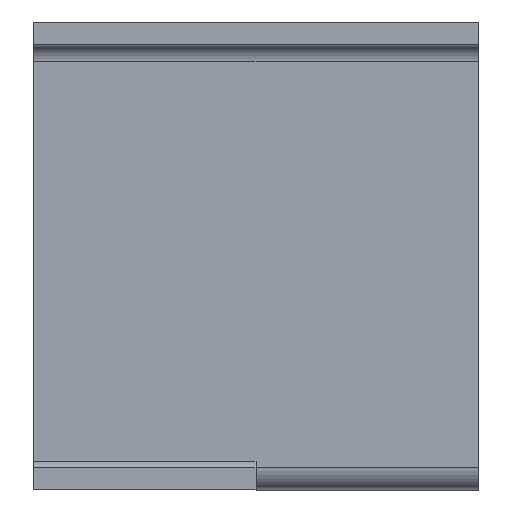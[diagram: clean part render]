
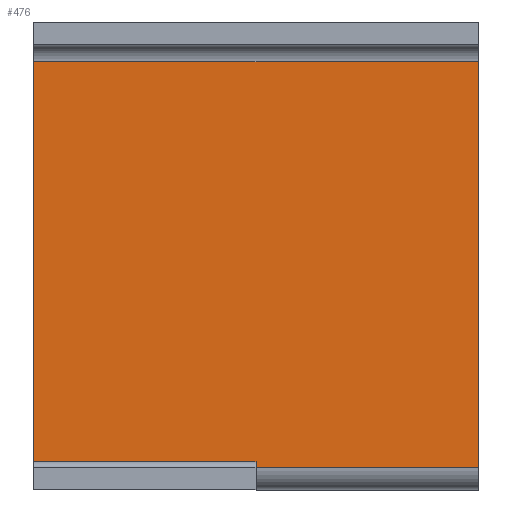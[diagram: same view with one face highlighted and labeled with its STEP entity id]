
A CAD part, top view. The second image highlights one B-rep face of the part: STEP entity #476.
In plain terms, the highlighted planar face has unit normal (0, 0, 1).
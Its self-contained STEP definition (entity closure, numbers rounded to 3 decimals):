
#58=FACE_OUTER_BOUND('',#83,.T.);
#83=EDGE_LOOP('',(#380,#381,#382,#383,#384,#385));
#103=LINE('',#711,#153);
#117=LINE('',#747,#167);
#124=LINE('',#772,#174);
#130=LINE('',#789,#180);
#132=LINE('',#794,#182);
#133=LINE('',#795,#183);
#153=VECTOR('',#573,10.);
#167=VECTOR('',#603,10.);
#174=VECTOR('',#626,10.);
#180=VECTOR('',#644,10.);
#182=VECTOR('',#650,10.);
#183=VECTOR('',#651,10.);
#203=VERTEX_POINT('',#707);
#205=VERTEX_POINT('',#710);
#219=VERTEX_POINT('',#746);
#228=VERTEX_POINT('',#769);
#229=VERTEX_POINT('',#771);
#234=VERTEX_POINT('',#788);
#253=EDGE_CURVE('',#203,#205,#103,.T.);
#271=EDGE_CURVE('',#205,#219,#117,.T.);
#283=EDGE_CURVE('',#228,#229,#124,.T.);
#292=EDGE_CURVE('',#219,#234,#130,.T.);
#295=EDGE_CURVE('',#203,#229,#132,.T.);
#296=EDGE_CURVE('',#234,#228,#133,.T.);
#380=ORIENTED_EDGE('',*,*,#295,.T.);
#381=ORIENTED_EDGE('',*,*,#283,.F.);
#382=ORIENTED_EDGE('',*,*,#296,.F.);
#383=ORIENTED_EDGE('',*,*,#292,.F.);
#384=ORIENTED_EDGE('',*,*,#271,.F.);
#385=ORIENTED_EDGE('',*,*,#253,.F.);
#451=PLANE('',#533);
#476=ADVANCED_FACE('',(#58),#451,.T.);
#533=AXIS2_PLACEMENT_3D('',#793,#648,#649);
#573=DIRECTION('',(-1.,0.,0.));
#603=DIRECTION('',(0.,1.,0.));
#626=DIRECTION('',(-1.,0.,0.));
#644=DIRECTION('',(1.,0.,0.));
#648=DIRECTION('center_axis',(0.,0.,1.));
#649=DIRECTION('ref_axis',(0.,-1.,0.));
#650=DIRECTION('',(0.,-1.,0.));
#651=DIRECTION('',(0.,-1.,0.));
#707=CARTESIAN_POINT('',(20.,2.5,0.));
#710=CARTESIAN_POINT('',(0.,2.5,0.));
#711=CARTESIAN_POINT('',(10.,2.5,0.));
#746=CARTESIAN_POINT('',(0.,38.5,0.));
#747=CARTESIAN_POINT('',(0.,0.,0.));
#769=CARTESIAN_POINT('',(40.,2.,0.));
#771=CARTESIAN_POINT('',(20.,2.,0.));
#772=CARTESIAN_POINT('',(0.,2.,0.));
#788=CARTESIAN_POINT('',(40.,38.5,0.));
#789=CARTESIAN_POINT('',(0.,38.5,0.));
#793=CARTESIAN_POINT('Origin',(0.,40.,0.));
#794=CARTESIAN_POINT('',(20.,20.,0.));
#795=CARTESIAN_POINT('',(40.,0.,0.));
